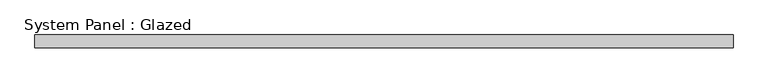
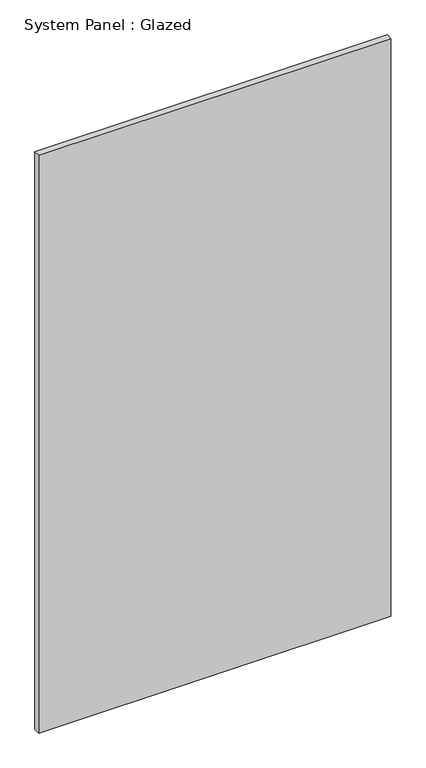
"""IFC4 building model written with IfcOpenShell, lengths in millimetres: plate geometry, System Panel : Glazed."""

from ifc_helpers import new_model, si_unit, origin, origin_with_axes, place, context, project, spatial, polyline, outline, extrude, source, transform, mapped, element, save


def system_panel_glazed_d7f2fe37(model_context):
    return source(origin(), model_context, "Body", "SweptSolid", [
        extrude(outline(polyline([(688.6640643, -49.5), (-688.6640643, -49.5), (-688.6640643, -24.5), (688.6640643, -24.5), (688.6640643, -49.5)])), origin_with_axes(), (0.0, 0.0, 1.0), 2390.0),
    ])


if __name__ == "__main__":
    model = new_model("IFC4")
    model_context = context("Model", 3, world=origin())
    ifc_project = project(units=[si_unit("LENGTHUNIT", "METRE", prefix="MILLI")], contexts=[model_context])
    site = spatial("IfcSite", under=ifc_project)
    building = spatial("IfcBuilding", under=site)
    placement = place(None, origin())
    system_panel_glazed_shape = system_panel_glazed_d7f2fe37(model_context)
    element("IfcPlate", 1, ObjectType="System Panel : Glazed", at=placement, inside=building, context=model_context, shape_type="MappedRepresentation", body=[
        mapped(system_panel_glazed_shape, transform((0.0, 0.0, 0.0), x_axis=(1.0, 0.0, 0.0), y_axis=(0.0, 1.0, 0.0), z_axis=(0.0, 0.0, 1.0))),
    ])
    save(model, "model.ifc")
